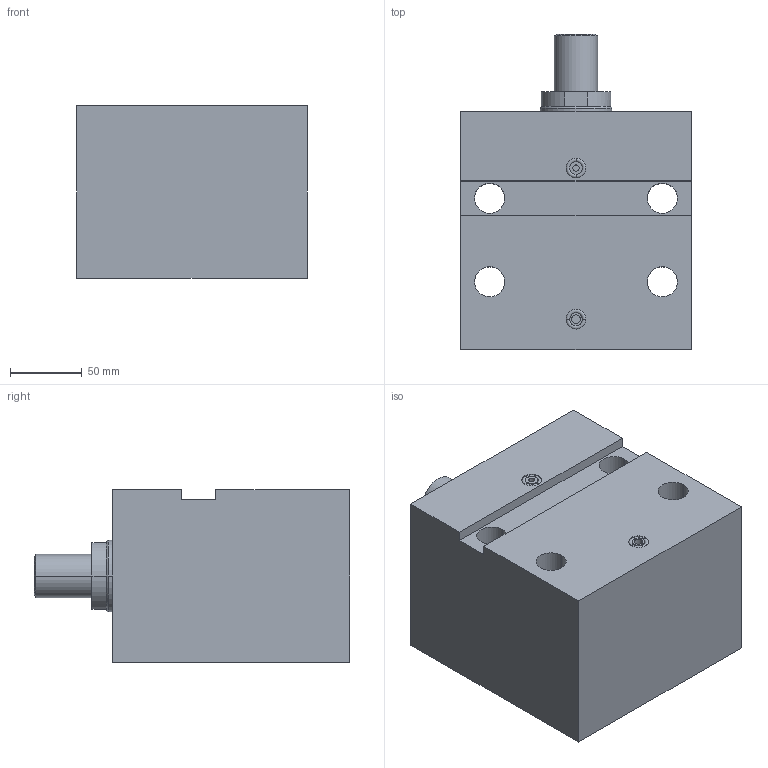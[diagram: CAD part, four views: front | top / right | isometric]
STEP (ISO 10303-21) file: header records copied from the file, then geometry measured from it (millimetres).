
FILE_DESCRIPTION (( 'STEP AP203' ), '1' );
FILE_NAME ('GERMA_Blockzylinder_604-080-080-A.STEP', '2016-01-25T09:45:38', ( '' ), ( '' ), 'SwSTEP 2.0', 'SolidWorks 2015', '' );
FILE_SCHEMA (( 'CONFIG_CONTROL_DESIGN' ));
Length unit declared in the file: millimetre
Products named in the file (3): Kolben 60x-080_Kolben DU.80-Hub80-AG; GERMA_Blockzylinder_604-080-080-A; GH-600-080_GH-604-080-080
Assembly tree (2 placements, depth 2):
  GERMA_Blockzylinder_604-080-080-A
    GH-600-080_GH-604-080-080
    Kolben 60x-080_Kolben DU.80-Hub80-AG
Bounding box: 160 x 219 x 120 mm (x, y, z)
Volume: 2787645.4 mm3; surface area: 243538.3 mm2
Topology: 2 solids, 2 shells, 81 faces, 178 edges, 109 vertices
Faces by surface type: cylinder 39, plane 26, cone 12, torus 4
Entity records: 2534 total; most frequent: DIRECTION 439, CARTESIAN_POINT 369, ORIENTED_EDGE 348, AXIS2_PLACEMENT_3D 179, EDGE_CURVE 174, VERTEX_POINT 109, EDGE_LOOP 101, CIRCLE 93
